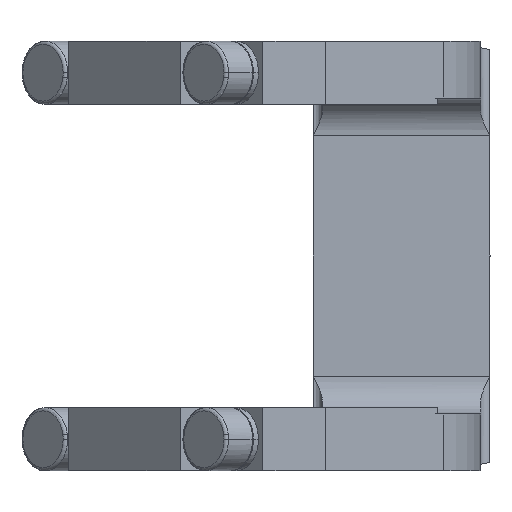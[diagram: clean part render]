
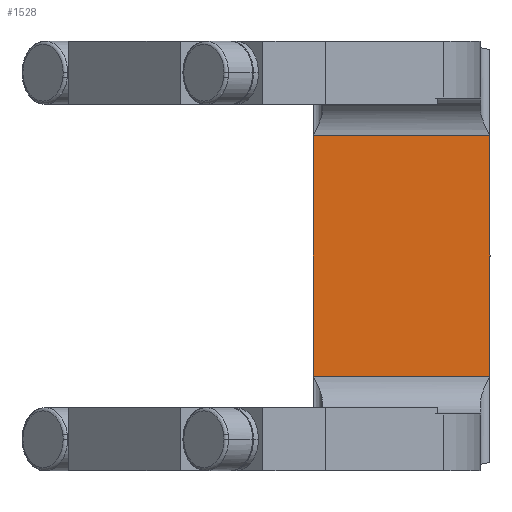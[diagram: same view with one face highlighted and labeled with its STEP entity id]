
A CAD part, front view. The second image highlights one B-rep face of the part: STEP entity #1528.
In plain terms, the highlighted planar face has unit normal (0, -1, 0).
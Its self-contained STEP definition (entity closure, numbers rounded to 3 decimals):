
#1001=CARTESIAN_POINT('Vertex',(15.,80.,19.)) ;
#1004=CARTESIAN_POINT('Line Origine',(-2.5,80.,19.)) ;
#1008=CARTESIAN_POINT('Vertex',(43.,80.,19.)) ;
#1498=CARTESIAN_POINT('Axis2P3D Location',(43.,80.,19.)) ;
#1503=CARTESIAN_POINT('Line Origine',(15.,80.,0.)) ;
#1507=CARTESIAN_POINT('Vertex',(15.,80.,-19.)) ;
#1510=CARTESIAN_POINT('Line Origine',(29.,80.,-19.)) ;
#1514=CARTESIAN_POINT('Vertex',(43.,80.,-19.)) ;
#1517=CARTESIAN_POINT('Line Origine',(43.,80.,0.)) ;
#1005=DIRECTION('Vector Direction',(1.,0.,0.)) ;
#1499=DIRECTION('Axis2P3D Direction',(0.,1.,0.)) ;
#1500=DIRECTION('Axis2P3D XDirection',(1.,0.,0.)) ;
#1504=DIRECTION('Vector Direction',(0.,0.,1.)) ;
#1511=DIRECTION('Vector Direction',(-1.,0.,0.)) ;
#1518=DIRECTION('Vector Direction',(0.,0.,1.)) ;
#1501=AXIS2_PLACEMENT_3D('Plane Axis2P3D',#1498,#1499,#1500) ;
#1523=ORIENTED_EDGE('',*,*,#1509,.F.) ;
#1524=ORIENTED_EDGE('',*,*,#1516,.F.) ;
#1525=ORIENTED_EDGE('',*,*,#1521,.T.) ;
#1526=ORIENTED_EDGE('',*,*,#1010,.T.) ;
#1006=VECTOR('Line Direction',#1005,1.) ;
#1505=VECTOR('Line Direction',#1504,1.) ;
#1512=VECTOR('Line Direction',#1511,1.) ;
#1519=VECTOR('Line Direction',#1518,1.) ;
#1528=ADVANCED_FACE('NONE',(#1527),#1502,.F.) ;
#1010=EDGE_CURVE('',#1009,#1002,#1007,.F.) ;
#1509=EDGE_CURVE('',#1508,#1002,#1506,.T.) ;
#1516=EDGE_CURVE('',#1515,#1508,#1513,.T.) ;
#1521=EDGE_CURVE('',#1515,#1009,#1520,.T.) ;
#1522=EDGE_LOOP('',(#1523,#1524,#1525,#1526)) ;
#1527=FACE_OUTER_BOUND('',#1522,.T.) ;
#1007=LINE('Line',#1004,#1006) ;
#1506=LINE('Line',#1503,#1505) ;
#1513=LINE('Line',#1510,#1512) ;
#1520=LINE('Line',#1517,#1519) ;
#1502=PLANE('Plane',#1501) ;
#1002=VERTEX_POINT('',#1001) ;
#1009=VERTEX_POINT('',#1008) ;
#1508=VERTEX_POINT('',#1507) ;
#1515=VERTEX_POINT('',#1514) ;
